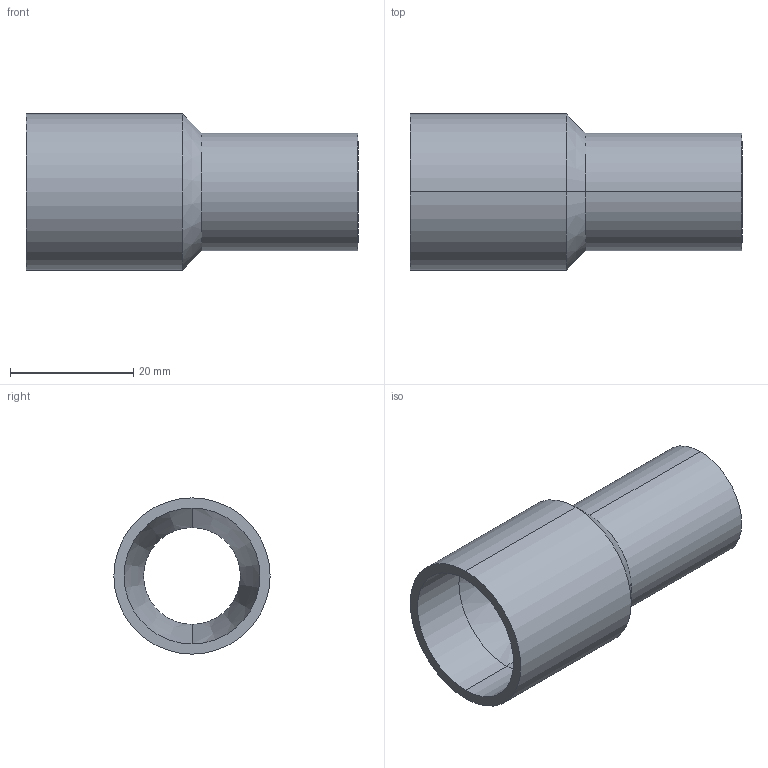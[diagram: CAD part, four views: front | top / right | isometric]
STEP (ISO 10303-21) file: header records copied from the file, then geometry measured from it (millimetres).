
FILE_DESCRIPTION (( 'STEP AP214' ), '1' );
FILE_NAME ('TE31SWW6L1.0x.75-...STEP', '2016-05-29T09:32:39', ( 'eran' ), ( '' ), 'SwSTEP 2.0', 'SolidWorks 2016', '' );
FILE_SCHEMA (( 'AUTOMOTIVE_DESIGN' ));
Length unit declared in the file: millimetre
Products named in the file (1): TE31SWW6L1.0x.75-..
Bounding box: 53.98 x 25.4 x 25.4 mm (x, y, z)
Volume: 7748.6 mm3; surface area: 7099.1 mm2
Topology: 1 solids, 1 shells, 14 faces, 28 edges, 16 vertices
Faces by surface type: cylinder 8, cone 4, plane 2
Entity records: 402 total; most frequent: DIRECTION 74, CARTESIAN_POINT 59, ORIENTED_EDGE 56, AXIS2_PLACEMENT_3D 31, EDGE_CURVE 28, EDGE_LOOP 16, CIRCLE 16, VERTEX_POINT 16
